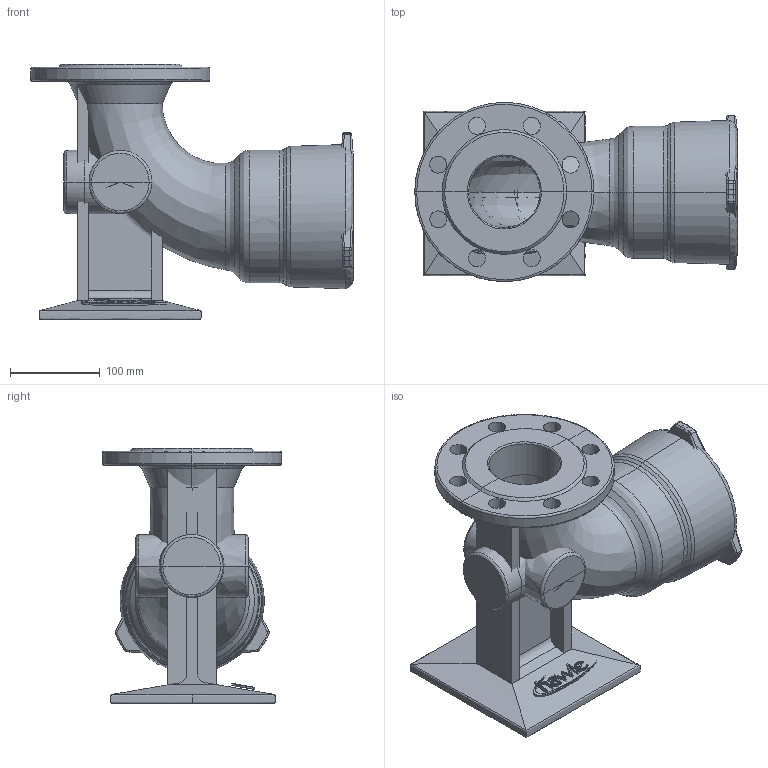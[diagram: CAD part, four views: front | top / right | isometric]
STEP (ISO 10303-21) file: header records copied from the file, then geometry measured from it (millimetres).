
FILE_DESCRIPTION (( 'STEP AP203' ), '1' );
FILE_NAME ('5491000000_Hawle_EN-STÜCK EWS_DN 100_80_MU-FL_OHNE SEITL.STEP', '2021-02-02T08:24:02', ( '' ), ( '' ), 'SwSTEP 2.0', 'SolidWorks 2020', '' );
FILE_SCHEMA (( 'CONFIG_CONTROL_DESIGN' ));
Length unit declared in the file: millimetre
Products named in the file (1): 5491000000_Hawle_EN-STÜCK EWS_DN 100_80_MU-FL_OHNE SEITL
Bounding box: 360.03 x 200.05 x 285 mm (x, y, z)
Surface area: 536819.8 mm2 (no closed solid volume)
Topology: 0 solids, 24 shells, 378 faces, 907 edges, 558 vertices
Faces by surface type: bspline 378
Entity records: 18416 total; most frequent: CARTESIAN_POINT 13067, ORIENTED_EDGE 1732, EDGE_CURVE 901, B_SPLINE_CURVE_WITH_KNOTS 710, VERTEX_POINT 558, EDGE_LOOP 398, FACE_OUTER_BOUND 378, ADVANCED_FACE 378
